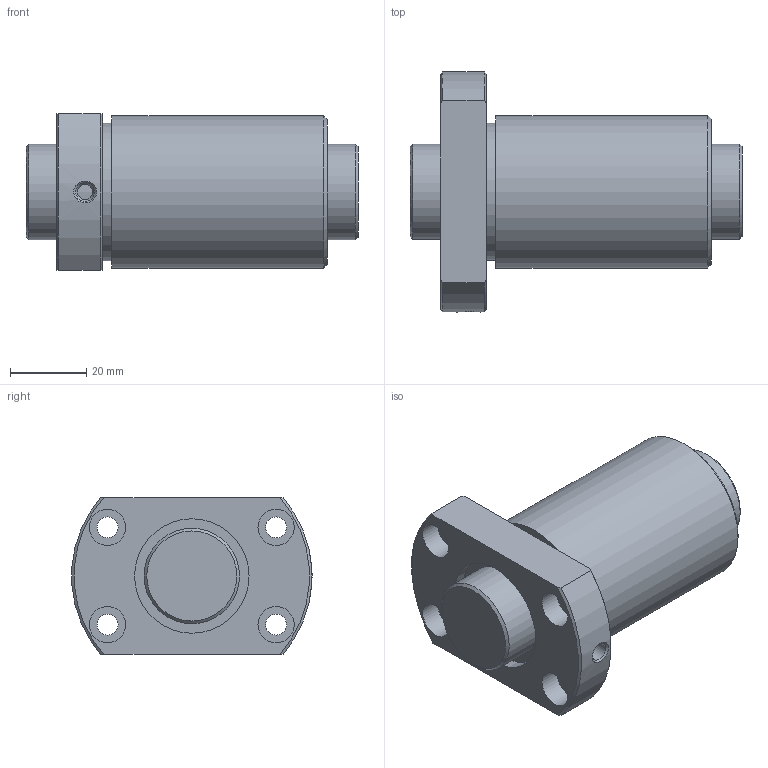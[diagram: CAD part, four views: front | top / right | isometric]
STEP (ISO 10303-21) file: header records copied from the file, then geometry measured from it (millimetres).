
FILE_DESCRIPTION(/* description */ ('STEP AP203'),/* implementation_level */ '2;1');
FILE_NAME(/* name */ 'DIK2508-4RRG0+87LC0_000',/* time_stamp */ '2025-01-13T09:53:37+01:00',/* author */ ('License CC BY-ND 4.0'),/* organization */ ('CADENAS'),/* preprocessor_version */ 'ST-DEVELOPER v19.3',/* originating_system */ 'PARTsolutions',/* authorisation */ ' ');
FILE_SCHEMA (('CONFIG_CONTROL_DESIGN'));
Length unit declared in the file: millimetre
Products named in the file (3): DIK2508-4RRG0+87LC0_000; DIK 2508-4RR08700 Shaft; DIK 2508-4RR Nut
Assembly tree (2 placements, depth 2):
  DIK2508-4RRG0+87LC0_000
    DIK 2508-4RR08700 Shaft
    DIK 2508-4RR Nut
Bounding box: 87 x 62.9 x 41 mm (x, y, z)
Volume: 106115.7 mm3; surface area: 28297.5 mm2
Topology: 2 solids, 2 shells, 41 faces, 83 edges, 54 vertices
Faces by surface type: cylinder 18, plane 14, cone 9
Full cylindrical faces by diameter (mm): 4 x1, 4.917 x1, 5.5 x4, 9.5 x4, 25 x2, 30 x2, 36 x1, 40 x1
Entity records: 1087 total; most frequent: CARTESIAN_POINT 200, DIRECTION 180, ORIENTED_EDGE 120, AXIS2_PLACEMENT_3D 86, EDGE_LOOP 82, FACE_BOUND 82, EDGE_CURVE 60, VERTEX_POINT 52
